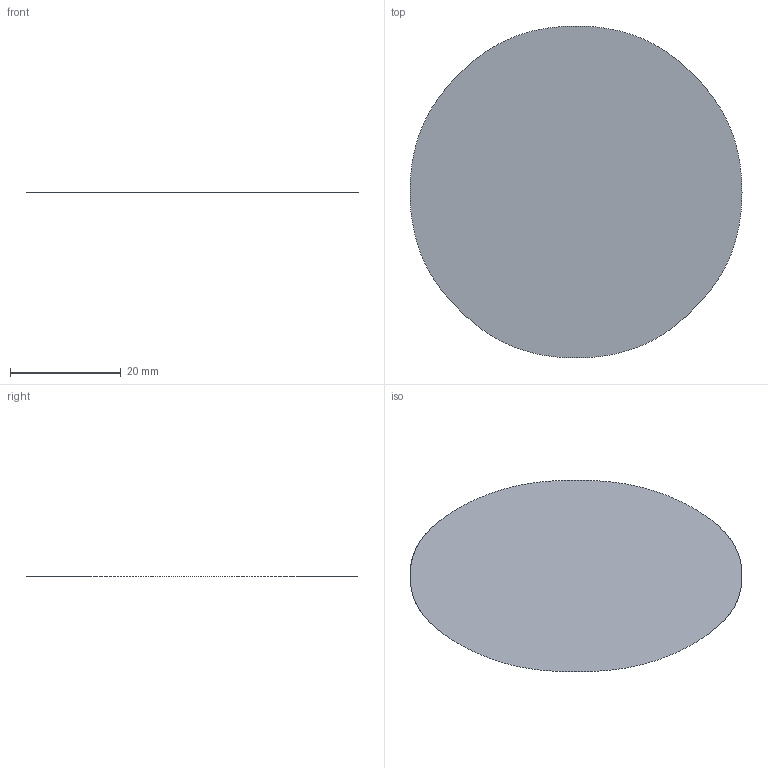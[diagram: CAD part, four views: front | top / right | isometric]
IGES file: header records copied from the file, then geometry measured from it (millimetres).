
Global section: file name: Filename.iges; native system: Open CASCADE 7.9; preprocessor: Open CASCADE IGES processor 7.9; author: HAKAN KARATEKE; date: 20261015.195651; units: millimetre
Bounding box: 59.82 x 59.82 x 0 mm (x, y, z)
Surface area: 2828.1 mm2 (no closed solid volume)
Topology: 0 solids, 0 shells, 1 faces, 637 edges, 637 vertices
Faces by surface type: plane 1
